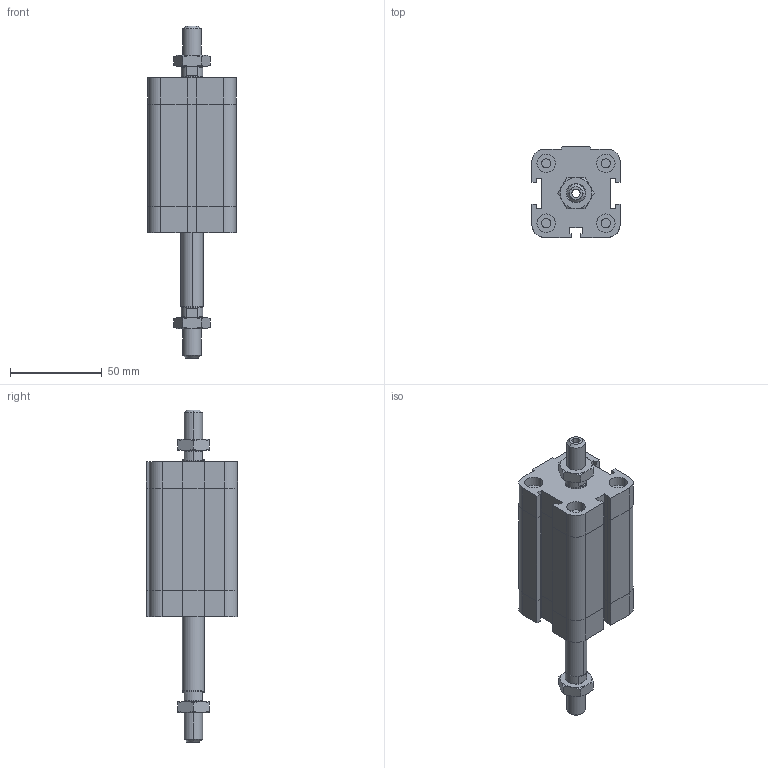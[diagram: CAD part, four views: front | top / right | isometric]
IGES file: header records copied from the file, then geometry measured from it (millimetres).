
Global section: file name: No Iges File Name specified; native system: Autodesk Inventor 2009; preprocessor: AutoDesk Inventor Iges Exporter R2009; author: maffial1; date: 20090420.142511; units: millimetre
Bounding box: 48 x 49.5 x 180.5 mm (x, y, z)
Volume: 179180.8 mm3; surface area: 41230 mm2
Topology: 4 solids, 4 shells, 262 faces, 580 edges, 346 vertices
Faces by surface type: plane 129, bspline 53, cone 38, cylinder 22, revolution 20
